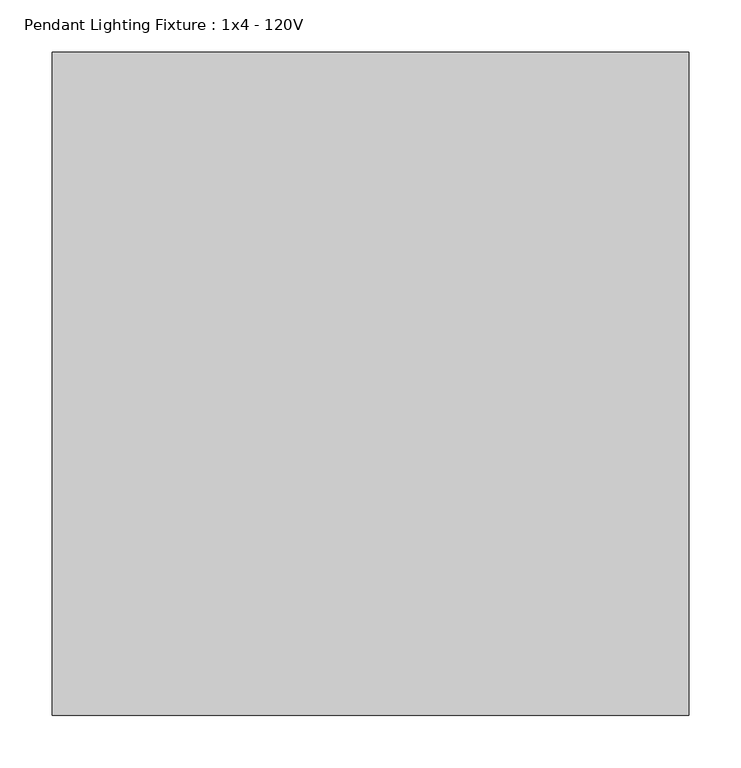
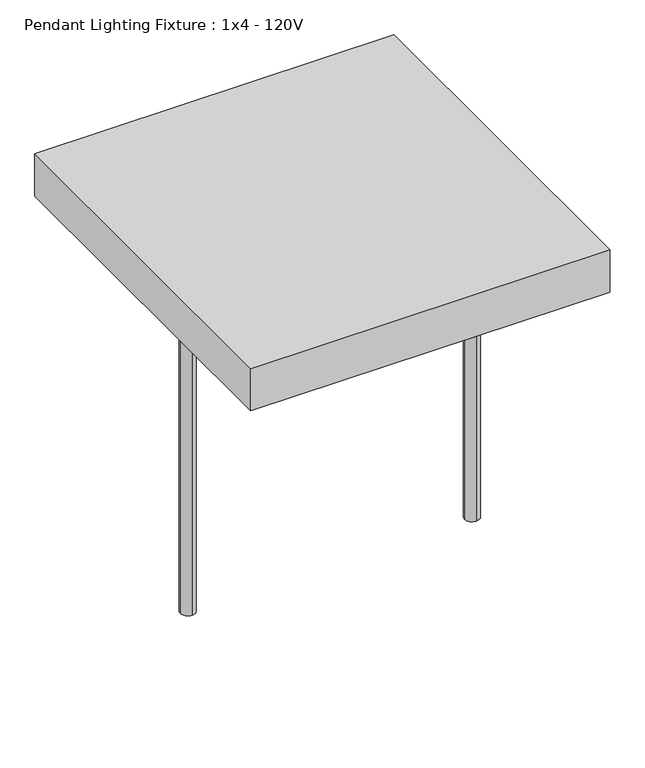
"""IFC4 building model written with IfcOpenShell, lengths in millimetres: light fixture geometry, Pendant Lighting Fixture : 1x4 - 120V."""

from ifc_helpers import new_model, si_unit, point, frame, frame_2d, origin, origin_with_axes, place, context, project, spatial, polyline, circle_curve, trimmed, segment, composite_curve, outline, extrude, source, transform, mapped, element, save


def pendant_lighting_fixture_1x4_120v_97e50c7d(model_context):
    return source(origin(), model_context, "Body", "SweptSolid", [
        extrude(outline(composite_curve([segment(trimmed(circle_curve(frame_2d((76.2, -101.6)), 12.7), [point((88.9, -101.6))], [point((76.2, -114.3))], False, "CARTESIAN"), True, "CONTINUOUS"), segment(trimmed(circle_curve(frame_2d((76.2, -101.6)), 12.7), [point((76.2, -114.3))], [point((63.5, -101.6))], False, "CARTESIAN"), True, "CONTINUOUS"), segment(trimmed(circle_curve(frame_2d((76.2, -101.6)), 12.7), [point((63.5, -101.6))], [point((76.2, -88.9))], False, "CARTESIAN"), True, "CONTINUOUS"), segment(trimmed(circle_curve(frame_2d((76.2, -101.6)), 12.7), [point((76.2, -88.9))], [point((88.9, -101.6))], False, "CARTESIAN"), True, "CONTINUOUS")], self_intersect=False)), origin_with_axes(), (0.0, 0.0, 1.0), 577.85),
        extrude(outline(composite_curve([segment(trimmed(circle_curve(frame_2d((558.8, -101.6)), 12.7), [point((571.5, -101.6))], [point((558.8, -114.3))], False, "CARTESIAN"), True, "CONTINUOUS"), segment(trimmed(circle_curve(frame_2d((558.8, -101.6)), 12.7), [point((558.8, -114.3))], [point((546.1, -101.6))], False, "CARTESIAN"), True, "CONTINUOUS"), segment(trimmed(circle_curve(frame_2d((558.8, -101.6)), 12.7), [point((546.1, -101.6))], [point((558.8, -88.9))], False, "CARTESIAN"), True, "CONTINUOUS"), segment(trimmed(circle_curve(frame_2d((558.8, -101.6)), 12.7), [point((558.8, -88.9))], [point((571.5, -101.6))], False, "CARTESIAN"), True, "CONTINUOUS")], self_intersect=False)), origin_with_axes(), (0.0, 0.0, 1.0), 577.85),
        extrude(outline(polyline([(609.6, 215.9), (609.6, -419.1), (0.0, -419.1), (0.0, 215.9), (609.6, 215.9)])), frame((0.0, 0.0, 577.85), z_axis=(0.0, 0.0, 1.0), x_axis=(1.0, 0.0, 0.0)), (0.0, 0.0, 1.0), 76.2),
    ])


if __name__ == "__main__":
    model = new_model("IFC4")
    model_context = context("Model", 3, world=origin())
    ifc_project = project(units=[si_unit("LENGTHUNIT", "METRE", prefix="MILLI")], contexts=[model_context])
    site = spatial("IfcSite", under=ifc_project)
    building = spatial("IfcBuilding", under=site)
    placement = place(None, origin())
    pendant_lighting_fixture_1x4_120v_shape = pendant_lighting_fixture_1x4_120v_97e50c7d(model_context)
    element("IfcLightFixture", 1, ObjectType="Pendant Lighting Fixture : 1x4 - 120V", at=placement, inside=building, context=model_context, shape_type="MappedRepresentation", body=[
        mapped(pendant_lighting_fixture_1x4_120v_shape, transform((0.0, 0.0, 0.0), x_axis=(1.0, 0.0, 0.0), y_axis=(0.0, 1.0, 0.0), z_axis=(0.0, 0.0, 1.0))),
    ])
    save(model, "model.ifc")
